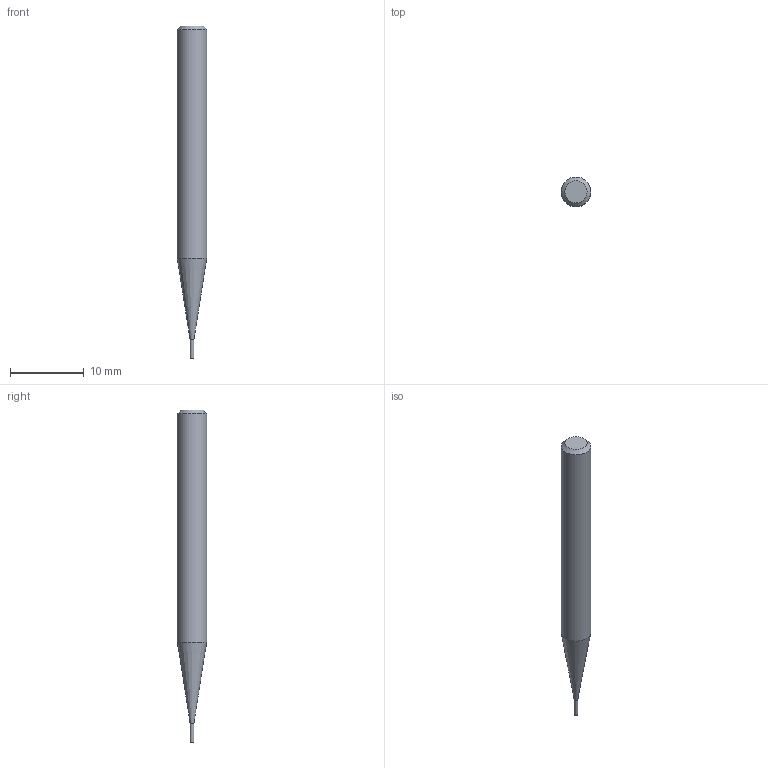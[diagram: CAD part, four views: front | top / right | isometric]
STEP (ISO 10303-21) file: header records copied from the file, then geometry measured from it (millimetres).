
FILE_DESCRIPTION((''),'2;1');
FILE_NAME('C:\Users\nsx150\Desktop\RSE230_20210427\01-00644-00501 RSE230 D0_5X2_5.step','2021-05-07T14:52:43',(''),(''),'STEP Write','Mastercam 2021 ... CNC Software, Inc.','');
FILE_SCHEMA(('AUTOMOTIVE_DESIGN'));
Length unit declared in the file: millimetre
Products named in the file (1): None
Bounding box: 4 x 4 x 45 mm (x, y, z)
Volume: 447.1 mm3; surface area: 487.4 mm2
Topology: 2 solids, 2 shells, 8 faces, 10 edges, 6 vertices
Faces by surface type: plane 4, cylinder 2, cone 2
Full cylindrical faces by diameter (mm): 0.5 x1, 4 x1
Entity records: 190 total; most frequent: DIRECTION 32, CARTESIAN_POINT 22, AXIS2_PLACEMENT_3D 16, ORIENTED_EDGE 12, EDGE_LOOP 12, STYLED_ITEM 11, ADVANCED_FACE 8, VERTEX_POINT 6
